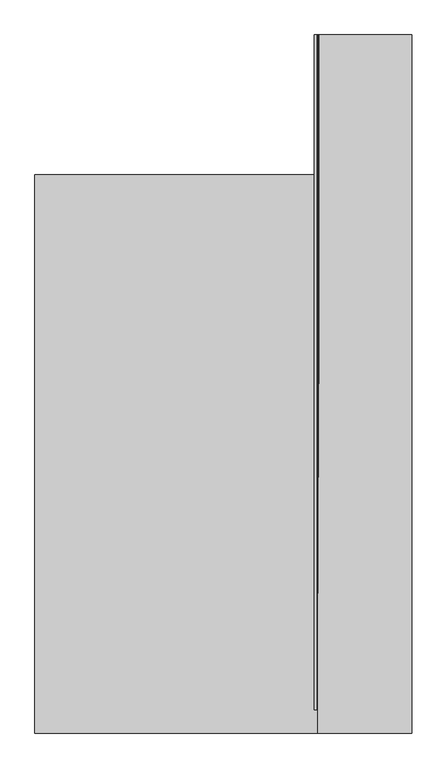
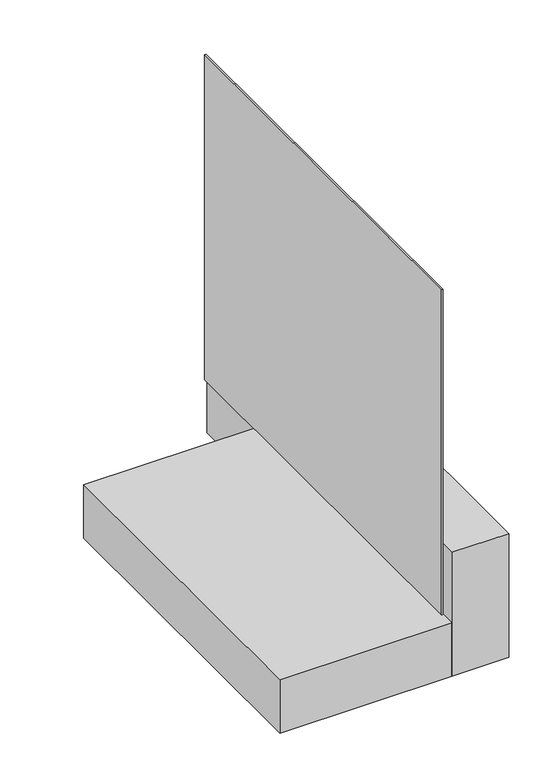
"""IFC4 building model written with IfcOpenShell, lengths in millimetres: proxy geometry, IMPER:IMPER:433934 : IMPER:IMPER:433934."""

from ifc_helpers import new_model, si_unit, point, frame, frame_2d, origin, place, context, project, spatial, polyline, circle_curve, trimmed, segment, composite_curve, outline, extrude, source, transform, mapped, element, save


def generic_models_bc2d820c(model_context):
    return source(origin(), model_context, "Body", "SweptSolid", [
        extrude(outline(polyline([(-351.9704105, 145.8700195), (-341.9704105, 145.8700195), (-341.9704105, -2753.5603664), (-351.9704105, -2753.5603664), (-351.9704105, 145.8700195)])), frame((0.0, 0.0, -2.523798), z_axis=(0.0, 0.0, 1.0), x_axis=(1.0, 0.0, 0.0)), (0.0, 0.0, 1.0), 2428.3179055),
        extrude(outline(polyline([(-336.9315394, -2854.1299805), (-1552.7804486, -2854.1299805), (-1552.7804486, -454.1299805), (-336.9315394, -454.1299805), (-336.9315394, -2854.1299805)])), frame((0.0, 0.0, -402.523798), z_axis=(0.0, 0.0, 1.0), x_axis=(1.0, 0.0, 0.0)), (0.0, 0.0, 1.0), 400.0),
        extrude(outline(polyline([(67.0408996, -2854.1299805), (-336.9315394, -2854.1299805), (-336.9315394, 145.8700195), (67.0408996, 145.8700195), (67.0408996, -2854.1299805)])), frame((0.0, 0.0, -402.523798), z_axis=(0.0, 0.0, 1.0), x_axis=(1.0, 0.0, 0.0)), (0.0, 0.0, 1.0), 923.3418813),
        extrude(outline(composite_curve([segment(polyline([(1063.6239853, -335.9591004), (-2.523798, -335.9591004)]), True, "CONTINUOUS"), segment(trimmed(circle_curve(frame_2d((-2.523798, -325.9591004)), 10.0), [point((-2.523798, -335.9591004))], [point((-2.523798, -315.9591004))], False, "CARTESIAN"), True, "CONTINUOUS"), segment(trimmed(circle_curve(frame_2d((-2.523798, -322.4800762)), 6.5209758), [point((-2.523798, -315.9591004))], [point((-2.523798, -329.001052))], False, "CARTESIAN"), True, "CONTINUOUS"), segment(trimmed(circle_curve(frame_2d((-2.523798, -325.7405641)), 3.2604879), [point((-2.523798, -329.001052))], [point((-2.523798, -322.4800762))], False, "CARTESIAN"), True, "CONTINUOUS"), segment(polyline([(-2.523798, -322.4800762), (-2.523798, -325.4800762)]), True, "CONTINUOUS"), segment(trimmed(circle_curve(frame_2d((-2.523798, -325.7405641)), 0.2604879), [point((-2.523798, -325.4800762))], [point((-2.523798, -326.001052))], True, "CARTESIAN"), True, "CONTINUOUS"), segment(trimmed(circle_curve(frame_2d((-2.523798, -322.4800762)), 3.5209758), [point((-2.523798, -326.001052))], [point((-2.523798, -318.9591004))], True, "CARTESIAN"), True, "CONTINUOUS"), segment(trimmed(circle_curve(frame_2d((-2.523798, -325.9591004)), 7.0), [point((-2.523798, -318.9591004))], [point((-2.523798, -332.9591004))], True, "CARTESIAN"), True, "CONTINUOUS"), segment(polyline([(-2.523798, -332.9591004), (1063.6239853, -332.9591004), (1063.6239853, -335.9591004)]), True, "CONTINUOUS")], self_intersect=False)), frame((0.0, -1354.1299805, 0.0), z_axis=(0.0, 1.0, 0.0), x_axis=(0.0, 0.0, 1.0)), (0.0, 0.0, 1.0), 1500.0),
        extrude(outline(polyline([(-340.9315394, 145.8700195), (-340.9315394, -2554.1299805), (-341.9704105, -2554.1299805), (-341.9704105, 145.8700195), (-340.9315394, 145.8700195)])), frame((0.0, 0.0, -2.523798), z_axis=(0.0, 0.0, 1.0), x_axis=(1.0, 0.0, 0.0)), (0.0, 0.0, 1.0), 2210.6503734),
        extrude(outline(polyline([(-336.9315394, 145.8700195), (-336.9315394, -2254.1299805), (-340.9315394, -2254.1299805), (-340.9315394, 145.8700195), (-336.9315394, 145.8700195)])), frame((0.0, 0.0, -2.523798), z_axis=(0.0, 0.0, 1.0), x_axis=(1.0, 0.0, 0.0)), (0.0, 0.0, 1.0), 1965.7083629),
        extrude(outline(polyline([(-335.9591004, 145.8700195), (-335.9591004, -1754.1299805), (-336.9315394, -1754.1299805), (-336.9315394, 145.8700195), (-335.9591004, 145.8700195)])), frame((0.0, 0.0, -2.523798), z_axis=(0.0, 0.0, 1.0), x_axis=(1.0, 0.0, 0.0)), (0.0, 0.0, 1.0), 1548.1528029),
    ])


if __name__ == "__main__":
    model = new_model("IFC4")
    model_context = context("Model", 3, world=origin())
    ifc_project = project(units=[si_unit("LENGTHUNIT", "METRE", prefix="MILLI")], contexts=[model_context])
    site = spatial("IfcSite", under=ifc_project)
    building = spatial("IfcBuilding", under=site)
    placement = place(None, origin())
    generic_models_shape = generic_models_bc2d820c(model_context)
    element("IfcBuildingElementProxy", 1, Name="IMPER:IMPER:433934 : IMPER:IMPER:433934", ObjectType="IMPER:IMPER:433934 : IMPER:IMPER:433934", at=placement, inside=building, context=model_context, shape_type="MappedRepresentation", body=[
        mapped(generic_models_shape, transform((0.0, 0.0, 0.0), x_axis=(1.0, 0.0, 0.0), y_axis=(0.0, 1.0, 0.0), z_axis=(0.0, 0.0, 1.0))),
    ])
    save(model, "model.ifc")
